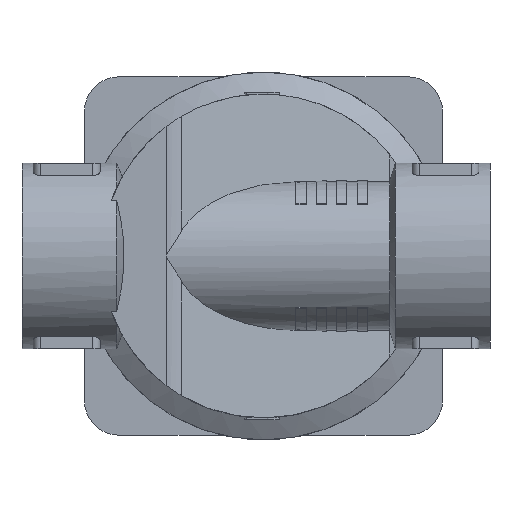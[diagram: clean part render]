
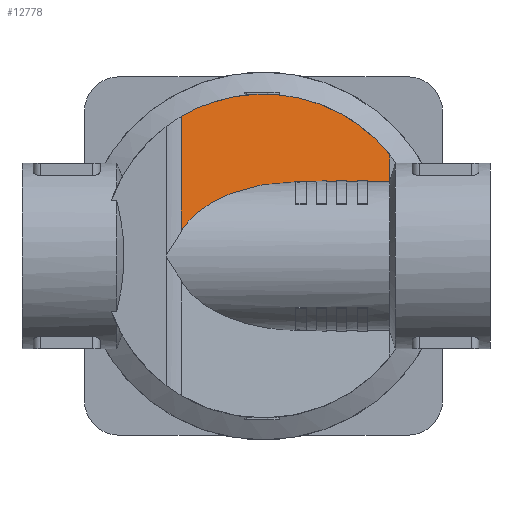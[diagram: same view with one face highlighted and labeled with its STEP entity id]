
A CAD part, front view. The second image highlights one B-rep face of the part: STEP entity #12778.
In plain terms, the highlighted planar face has unit normal (0.517, -0.856, 0).
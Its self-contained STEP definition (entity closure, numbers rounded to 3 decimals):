
#65=ELLIPSE('',#13381,50.947,43.6);
#73=ELLIPSE('',#13420,38.661,20.);
#112=B_SPLINE_CURVE_WITH_KNOTS('',3,(#17797,#17798,#17799,#17800),
 .UNSPECIFIED.,.F.,.F.,(4,4),(0.007,0.007),
 .UNSPECIFIED.);
#240=PLANE('',#13484);
#842=LINE('',#18006,#1974);
#843=LINE('',#18008,#1975);
#844=LINE('',#18009,#1976);
#1974=VECTOR('',#14873,1000.);
#1975=VECTOR('',#14874,1000.);
#1976=VECTOR('',#14875,1000.);
#3554=ORIENTED_EDGE('',*,*,#6328,.F.);
#3555=ORIENTED_EDGE('',*,*,#6329,.T.);
#3556=ORIENTED_EDGE('',*,*,#6232,.T.);
#3557=ORIENTED_EDGE('',*,*,#6143,.F.);
#3558=ORIENTED_EDGE('',*,*,#6330,.T.);
#3559=ORIENTED_EDGE('',*,*,#6209,.T.);
#6143=EDGE_CURVE('',#7598,#7599,#65,.F.);
#6209=EDGE_CURVE('',#7665,#7664,#73,.F.);
#6232=EDGE_CURVE('',#7686,#7599,#112,.T.);
#6328=EDGE_CURVE('',#7746,#7664,#842,.T.);
#6329=EDGE_CURVE('',#7746,#7686,#843,.T.);
#6330=EDGE_CURVE('',#7598,#7665,#844,.T.);
#7598=VERTEX_POINT('',#17560);
#7599=VERTEX_POINT('',#17562);
#7664=VERTEX_POINT('',#17737);
#7665=VERTEX_POINT('',#17739);
#7686=VERTEX_POINT('',#17801);
#7746=VERTEX_POINT('',#18007);
#8884=EDGE_LOOP('',(#3554,#3555,#3556,#3557,#3558,#3559));
#9477=FACE_BOUND('',#8884,.T.);
#12778=ADVANCED_FACE('',(#9477),#240,.T.);
#13381=AXIS2_PLACEMENT_3D('',#17561,#14564,#14565);
#13420=AXIS2_PLACEMENT_3D('',#17738,#14666,#14667);
#13484=AXIS2_PLACEMENT_3D('',#18005,#14871,#14872);
#14564=DIRECTION('',(0.517,-0.856,0.));
#14565=DIRECTION('',(0.856,0.517,0.));
#14666=DIRECTION('',(0.517,-0.856,0.));
#14667=DIRECTION('',(-0.856,-0.517,0.));
#14871=DIRECTION('',(0.517,-0.856,0.));
#14872=DIRECTION('',(0.856,0.517,0.));
#14873=DIRECTION('',(-0.856,-0.517,0.));
#14874=DIRECTION('',(0.,0.,1.));
#14875=DIRECTION('',(0.,0.,-1.));
#17560=CARTESIAN_POINT('',(-22.092,-18.846,37.589));
#17561=CARTESIAN_POINT('',(0.,-5.493,0.));
#17562=CARTESIAN_POINT('',(34.056,15.094,27.224));
#17737=CARTESIAN_POINT('',(9.086,0.,20.));
#17738=CARTESIAN_POINT('',(9.086,0.,0.));
#17739=CARTESIAN_POINT('',(-22.092,-18.846,6.694));
#17797=CARTESIAN_POINT('',(34.057,15.094,27.224));
#17798=CARTESIAN_POINT('',(34.057,15.094,27.224));
#17799=CARTESIAN_POINT('',(34.056,15.094,27.224));
#17800=CARTESIAN_POINT('',(34.056,15.094,27.224));
#17801=CARTESIAN_POINT('',(34.057,15.094,27.224));
#18005=CARTESIAN_POINT('',(43.,20.5,99.));
#18006=CARTESIAN_POINT('',(43.,20.5,20.));
#18007=CARTESIAN_POINT('',(34.057,15.094,20.));
#18008=CARTESIAN_POINT('',(34.057,15.094,99.));
#18009=CARTESIAN_POINT('',(-22.092,-18.846,99.));
